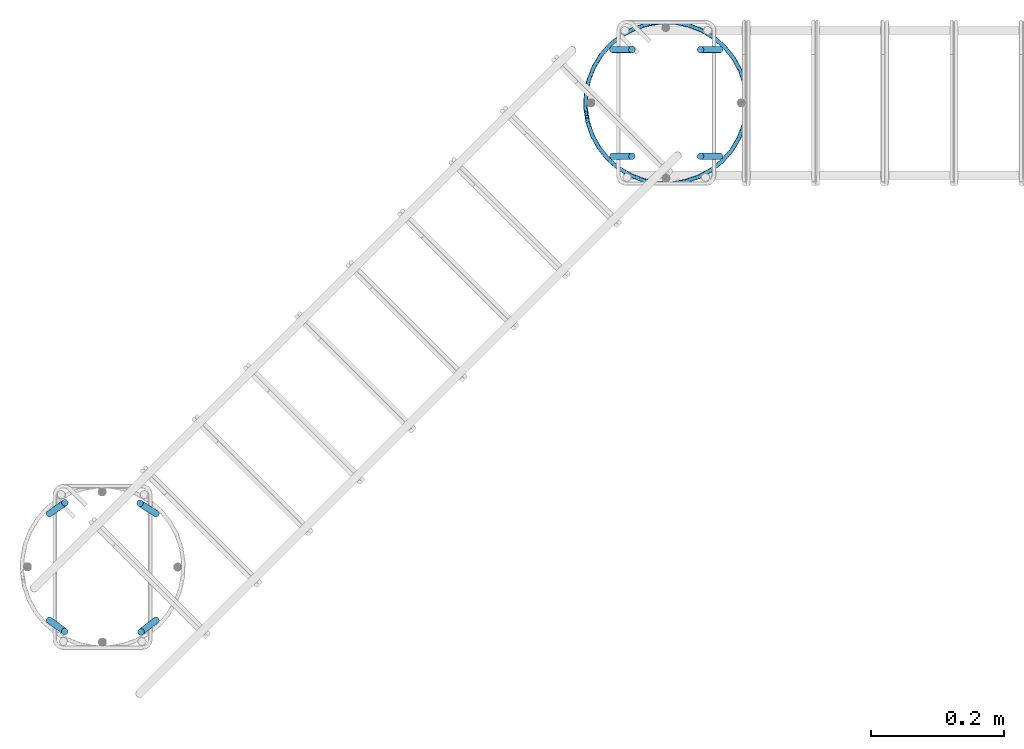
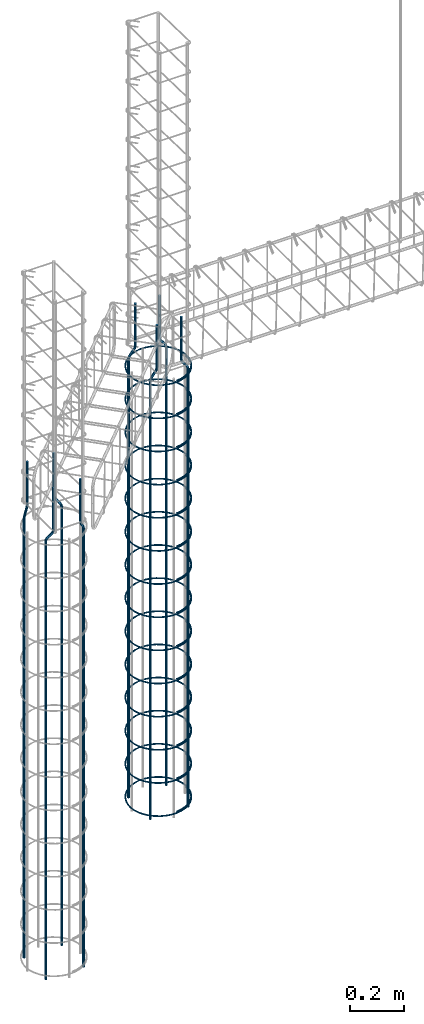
# One storey, part 3 of 14: 9 reinforcing bars.
"""IFC4 building model written with IfcOpenShell, lengths in centimetres."""

from ifc_helpers import new_model, entity, si_unit, converted_unit, derived_unit, direction, frame, origin, place, context, subcontext, project, spatial, type_object, element, save


model = new_model("IFC4")

# Units and contexts
model_context = context("Model", 3, precision=0.001, world=origin(), true_north=direction((6.123233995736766e-17, 1.0)))
body_context = subcontext(model_context, "Body", "Model", "MODEL_VIEW")
ifc_project = project(units=[si_unit("LENGTHUNIT", "METRE", prefix="CENTI"), si_unit("AREAUNIT", "SQUARE_METRE"), converted_unit("PLANEANGLEUNIT", "DEGREE", entity("IfcPlaneAngleMeasure", 0.017453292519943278), si_unit("PLANEANGLEUNIT", "RADIAN"), dimensions=[0, 0, 0, 0, 0, 0, 0]), si_unit("VOLUMEUNIT", "CUBIC_METRE"), derived_unit("THERMALTRANSMITTANCEUNIT", [(si_unit("MASSUNIT", "GRAM", prefix="KILO"), 1), (si_unit("THERMODYNAMICTEMPERATUREUNIT", "KELVIN"), -1), (si_unit("TIMEUNIT", "SECOND"), -3)])], contexts=[model_context])

# Site, building, storey
site_placement = place(None, origin())
site = spatial("IfcSite", under=ifc_project, at=site_placement, Name="Default", CompositionType="ELEMENT")
building_placement = place(site_placement, origin())
building = spatial("IfcBuilding", under=site, at=building_placement, Name="CONTENÇÃO DE ARQUIBANCADA - GINÁSIO PADRÃO", CompositionType="ELEMENT")
storey_placement = place(building_placement, frame((0.0, 0.0, -100.0)))
storey = spatial("IfcBuildingStorey", under=building, at=storey_placement, Name="Nível 3", CompositionType="ELEMENT", Elevation=-100.0)

# Reinforcing bars
reinforcing_bar_type_1 = type_object("IfcReinforcingBarType", Name="Barra do vergalhão:10 CA-50", PredefinedType="NOTDEFINED")
reinforcing_bar_1_placement = place(storey_placement, origin())
element("IfcReinforcingBar", 1, at=reinforcing_bar_1_placement, inside=storey, type_object=reinforcing_bar_type_1, Name="Barra do vergalhão:10 CA-50 : Forma 19", ObjectType="Barra do vergalhão:10 CA-50", context=body_context, shape_type="AdvancedSweptSolid", body=[
    entity("IfcSweptDiskSolid", entity("IfcIndexedPolyCurve", entity("IfcCartesianPointList3D", [[-62.50386910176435, 187.1149900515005, -129.99999999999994], [-62.50386910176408, 187.11499005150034, 67.4289900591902], [-62.65034242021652, 187.2101109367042, 68.43764958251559], [-63.072708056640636, 187.4843983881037, 69.32886791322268], [-64.34376524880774, 188.30983258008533, 71.18095366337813], [-64.76613088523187, 188.58412003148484, 72.07217199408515], [-64.9126042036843, 188.6792409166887, 73.08083151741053], [-64.91260420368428, 188.6792409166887, 92.00982157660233]]), [entity("IfcLineIndex", [1, 2]), entity("IfcArcIndex", [2, 3, 4]), entity("IfcLineIndex", [4, 5]), entity("IfcArcIndex", [5, 6, 7]), entity("IfcLineIndex", [7, 8])], False), 0.5, None, 0.0, 81.58693171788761),
])
reinforcing_bar_2_placement = place(storey_placement, origin())
element("IfcReinforcingBar", 2, at=reinforcing_bar_2_placement, inside=storey, type_object=reinforcing_bar_type_1, Name="Barra do vergalhão:10 CA-50 : Forma 19", ObjectType="Barra do vergalhão:10 CA-50", context=body_context, shape_type="AdvancedSweptSolid", body=[
    entity("IfcSweptDiskSolid", entity("IfcIndexedPolyCurve", entity("IfcCartesianPointList3D", [[-78.58549875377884, 187.11499005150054, -129.99999999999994], [-78.58549875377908, 187.11499005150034, 67.4289900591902], [-78.44243433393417, 187.21516483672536, 68.43764958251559], [-78.02989848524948, 187.50402554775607, 69.32886791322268], [-76.78842282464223, 188.37331616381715, 71.18095366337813], [-76.37588697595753, 188.66217687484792, 72.07217199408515], [-76.23282255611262, 188.7623516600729, 73.08083151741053], [-76.23282255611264, 188.7623516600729, 92.00982157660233]]), [entity("IfcLineIndex", [1, 2]), entity("IfcArcIndex", [2, 3, 4]), entity("IfcLineIndex", [4, 5]), entity("IfcArcIndex", [5, 6, 7]), entity("IfcLineIndex", [7, 8])], False), 0.5, None, 0.0, 81.58693171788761),
])
reinforcing_bar_3_placement = place(storey_placement, origin())
element("IfcReinforcingBar", 3, at=reinforcing_bar_3_placement, inside=storey, type_object=reinforcing_bar_type_1, Name="Barra do vergalhão:10 CA-50 : Forma 19", ObjectType="Barra do vergalhão:10 CA-50", context=body_context, shape_type="AdvancedSweptSolid", body=[
    entity("IfcSweptDiskSolid", entity("IfcIndexedPolyCurve", entity("IfcCartesianPointList3D", [[-62.50386910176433, 171.03336039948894, -129.99999999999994], [-62.50386910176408, 171.03336039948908, 67.4289900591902], [-62.64149471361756, 170.9258354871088, 68.43764958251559], [-63.03834739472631, 170.6157801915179, 69.32886791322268], [-64.23262650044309, 169.68270709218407, 71.18095366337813], [-64.62947918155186, 169.37265179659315, 72.07217199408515], [-64.76710479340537, 169.26512688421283, 73.08083151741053], [-64.76710479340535, 169.26512688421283, 92.00982157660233]]), [entity("IfcLineIndex", [1, 2]), entity("IfcArcIndex", [2, 3, 4]), entity("IfcLineIndex", [4, 5]), entity("IfcArcIndex", [5, 6, 7]), entity("IfcLineIndex", [7, 8])], False), 0.5, None, 0.0, 81.58693171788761),
])
reinforcing_bar_4_placement = place(storey_placement, origin())
element("IfcReinforcingBar", 4, at=reinforcing_bar_4_placement, inside=storey, type_object=reinforcing_bar_type_1, Name="Barra do vergalhão:10 CA-50 : Forma 19", ObjectType="Barra do vergalhão:10 CA-50", context=body_context, shape_type="AdvancedSweptSolid", body=[
    entity("IfcSweptDiskSolid", entity("IfcIndexedPolyCurve", entity("IfcCartesianPointList3D", [[-78.58549875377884, 171.03336039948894, -129.99999999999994], [-78.58549875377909, 171.0333603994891, 67.4289900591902], [-78.44420441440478, 170.9307040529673, 68.43764958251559], [-78.03677271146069, 170.63468759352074, 69.32886791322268], [-76.81065734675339, 169.7438626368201, 71.18095366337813], [-76.40322564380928, 169.44784617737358, 72.07217199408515], [-76.26193130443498, 169.34518983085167, 73.08083151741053], [-76.261931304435, 169.34518983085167, 92.00982157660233]]), [entity("IfcLineIndex", [1, 2]), entity("IfcArcIndex", [2, 3, 4]), entity("IfcLineIndex", [4, 5]), entity("IfcArcIndex", [5, 6, 7]), entity("IfcLineIndex", [7, 8])], False), 0.5, None, 0.0, 81.58693171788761),
])
reinforcing_bar_5_placement = place(storey_placement, origin())
element("IfcReinforcingBar", 5, at=reinforcing_bar_5_placement, inside=storey, type_object=reinforcing_bar_type_1, Name="Barra do vergalhão:10 CA-50 : Forma 19", ObjectType="Barra do vergalhão:10 CA-50", context=body_context, shape_type="AdvancedSweptSolid", body=[
    entity("IfcSweptDiskSolid", entity("IfcIndexedPolyCurve", entity("IfcCartesianPointList3D", [[22.496130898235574, 257.1149900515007, -129.99999999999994], [22.496130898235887, 257.1149900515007, 67.4289900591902], [22.321481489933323, 257.1149900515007, 68.43764958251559], [21.81786820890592, 257.1149900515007, 69.32886791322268], [20.302306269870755, 257.1149900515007, 71.18095366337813], [19.798692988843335, 257.1149900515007, 72.07217199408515], [19.624043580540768, 257.1149900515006, 73.08083151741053], [19.624043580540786, 257.1149900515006, 92.00982157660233]]), [entity("IfcLineIndex", [1, 2]), entity("IfcArcIndex", [2, 3, 4]), entity("IfcLineIndex", [4, 5]), entity("IfcArcIndex", [5, 6, 7]), entity("IfcLineIndex", [7, 8])], False), 0.5, None, 0.0, 81.58693171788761),
])
reinforcing_bar_6_placement = place(storey_placement, origin())
element("IfcReinforcingBar", 6, at=reinforcing_bar_6_placement, inside=storey, type_object=reinforcing_bar_type_1, Name="Barra do vergalhão:10 CA-50 : Forma 19", ObjectType="Barra do vergalhão:10 CA-50", context=body_context, shape_type="AdvancedSweptSolid", body=[
    entity("IfcSweptDiskSolid", entity("IfcIndexedPolyCurve", entity("IfcCartesianPointList3D", [[6.414501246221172, 257.1149900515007, -129.99999999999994], [6.414501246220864, 257.1149900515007, 67.4289900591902], [6.589150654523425, 257.1149900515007, 68.43764958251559], [7.092763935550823, 257.1149900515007, 69.32886791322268], [8.608325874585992, 257.1149900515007, 71.18095366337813], [9.111939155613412, 257.1149900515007, 72.07217199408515], [9.286588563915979, 257.1149900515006, 73.08083151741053], [9.286588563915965, 257.1149900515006, 92.00982157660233]]), [entity("IfcLineIndex", [1, 2]), entity("IfcArcIndex", [2, 3, 4]), entity("IfcLineIndex", [4, 5]), entity("IfcArcIndex", [5, 6, 7]), entity("IfcLineIndex", [7, 8])], False), 0.5, None, 0.0, 81.58693171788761),
])
reinforcing_bar_7_placement = place(storey_placement, origin())
element("IfcReinforcingBar", 7, at=reinforcing_bar_7_placement, inside=storey, type_object=reinforcing_bar_type_1, Name="Barra do vergalhão:10 CA-50 : Forma 19", ObjectType="Barra do vergalhão:10 CA-50", context=body_context, shape_type="AdvancedSweptSolid", body=[
    entity("IfcSweptDiskSolid", entity("IfcIndexedPolyCurve", entity("IfcCartesianPointList3D", [[22.496130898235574, 241.03336039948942, -129.99999999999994], [22.496130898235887, 241.03336039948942, 67.4289900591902], [22.321481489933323, 241.03336039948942, 68.43764958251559], [21.81786820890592, 241.03336039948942, 69.32886791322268], [20.302306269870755, 241.03336039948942, 71.18095366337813], [19.798692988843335, 241.03336039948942, 72.07217199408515], [19.624043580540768, 241.03336039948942, 73.08083151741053], [19.624043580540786, 241.03336039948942, 92.00982157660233]]), [entity("IfcLineIndex", [1, 2]), entity("IfcArcIndex", [2, 3, 4]), entity("IfcLineIndex", [4, 5]), entity("IfcArcIndex", [5, 6, 7]), entity("IfcLineIndex", [7, 8])], False), 0.5, None, 0.0, 81.58693171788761),
])
reinforcing_bar_8_placement = place(storey_placement, origin())
element("IfcReinforcingBar", 8, at=reinforcing_bar_8_placement, inside=storey, type_object=reinforcing_bar_type_1, Name="Barra do vergalhão:10 CA-50 : Forma 19", ObjectType="Barra do vergalhão:10 CA-50", context=body_context, shape_type="AdvancedSweptSolid", body=[
    entity("IfcSweptDiskSolid", entity("IfcIndexedPolyCurve", entity("IfcCartesianPointList3D", [[6.414501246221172, 241.03336039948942, -129.99999999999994], [6.414501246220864, 241.03336039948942, 67.4289900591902], [6.589150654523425, 241.03336039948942, 68.43764958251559], [7.092763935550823, 241.03336039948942, 69.32886791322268], [8.608325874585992, 241.03336039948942, 71.18095366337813], [9.111939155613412, 241.03336039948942, 72.07217199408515], [9.286588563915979, 241.03336039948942, 73.08083151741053], [9.286588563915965, 241.03336039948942, 92.00982157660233]]), [entity("IfcLineIndex", [1, 2]), entity("IfcArcIndex", [2, 3, 4]), entity("IfcLineIndex", [4, 5]), entity("IfcArcIndex", [5, 6, 7]), entity("IfcLineIndex", [7, 8])], False), 0.5, None, 0.0, 81.58693171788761),
])
reinforcing_bar_type_2 = type_object("IfcReinforcingBarType", Name="Barra do vergalhão:6.3 CA-50", PredefinedType="NOTDEFINED")
reinforcing_bar_9_placement = place(storey_placement, origin())
element("IfcReinforcingBar", 9, at=reinforcing_bar_9_placement, inside=storey, type_object=reinforcing_bar_type_2, Name="Barra do vergalhão:6.3 CA-50 : Forma 33", ObjectType="Barra do vergalhão:6.3 CA-50", context=body_context, shape_type="AdvancedSweptSolid", body=[
    entity("IfcSweptDiskSolid", entity("IfcIndexedPolyCurve", entity("IfcCartesianPointList3D", [[15.274835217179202, 236.91676541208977, -127.19078734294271], [26.612725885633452, 249.89369437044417, -127.19078734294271], [13.635796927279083, 261.23158503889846, -127.19078734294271], [5.279241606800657, 257.0912746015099, -127.50578734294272], [2.297906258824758, 248.25465608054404, -127.82078734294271], [15.274835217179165, 236.91676541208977, -127.82078734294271], [26.612725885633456, 249.8936943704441, -127.82078734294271]]), [entity("IfcArcIndex", [1, 2, 3]), entity("IfcArcIndex", [3, 4, 5]), entity("IfcArcIndex", [5, 6, 7])], False), 0.31499999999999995, None, 0.0, 449.9458977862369),
    entity("IfcSweptDiskSolid", entity("IfcIndexedPolyCurve", entity("IfcCartesianPointList3D", [[15.274835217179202, 236.91676541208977, -112.23880370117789], [26.612725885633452, 249.89369437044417, -112.23880370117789], [13.635796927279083, 261.23158503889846, -112.23880370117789], [5.279241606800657, 257.0912746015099, -112.5538037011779], [2.297906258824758, 248.25465608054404, -112.86880370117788], [15.274835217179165, 236.91676541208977, -112.86880370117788], [26.612725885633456, 249.8936943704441, -112.86880370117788]]), [entity("IfcArcIndex", [1, 2, 3]), entity("IfcArcIndex", [3, 4, 5]), entity("IfcArcIndex", [5, 6, 7])], False), 0.31499999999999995, None, 0.0, 449.9458977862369),
    entity("IfcSweptDiskSolid", entity("IfcIndexedPolyCurve", entity("IfcCartesianPointList3D", [[15.274835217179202, 236.91676541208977, -97.28682005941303], [26.612725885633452, 249.89369437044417, -97.28682005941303], [13.635796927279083, 261.23158503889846, -97.28682005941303], [5.279241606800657, 257.0912746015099, -97.60182005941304], [2.297906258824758, 248.25465608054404, -97.91682005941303], [15.274835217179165, 236.91676541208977, -97.91682005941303], [26.612725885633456, 249.8936943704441, -97.91682005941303]]), [entity("IfcArcIndex", [1, 2, 3]), entity("IfcArcIndex", [3, 4, 5]), entity("IfcArcIndex", [5, 6, 7])], False), 0.31499999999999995, None, 0.0, 449.9458977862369),
    entity("IfcSweptDiskSolid", entity("IfcIndexedPolyCurve", entity("IfcCartesianPointList3D", [[15.274835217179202, 236.91676541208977, -82.33483641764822], [26.612725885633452, 249.89369437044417, -82.33483641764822], [13.635796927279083, 261.23158503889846, -82.33483641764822], [5.279241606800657, 257.0912746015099, -82.64983641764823], [2.297906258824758, 248.25465608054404, -82.9648364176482], [15.274835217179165, 236.91676541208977, -82.9648364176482], [26.612725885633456, 249.8936943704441, -82.9648364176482]]), [entity("IfcArcIndex", [1, 2, 3]), entity("IfcArcIndex", [3, 4, 5]), entity("IfcArcIndex", [5, 6, 7])], False), 0.31499999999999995, None, 0.0, 449.9458977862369),
    entity("IfcSweptDiskSolid", entity("IfcIndexedPolyCurve", entity("IfcCartesianPointList3D", [[15.274835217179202, 236.91676541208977, -67.38285277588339], [26.612725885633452, 249.89369437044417, -67.38285277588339], [13.635796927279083, 261.23158503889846, -67.38285277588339], [5.279241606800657, 257.0912746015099, -67.6978527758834], [2.297906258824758, 248.25465608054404, -68.01285277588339], [15.274835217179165, 236.91676541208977, -68.01285277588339], [26.612725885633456, 249.8936943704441, -68.01285277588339]]), [entity("IfcArcIndex", [1, 2, 3]), entity("IfcArcIndex", [3, 4, 5]), entity("IfcArcIndex", [5, 6, 7])], False), 0.31499999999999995, None, 0.0, 449.9458977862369),
    entity("IfcSweptDiskSolid", entity("IfcIndexedPolyCurve", entity("IfcCartesianPointList3D", [[15.274835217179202, 236.91676541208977, -52.43086913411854], [26.612725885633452, 249.89369437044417, -52.43086913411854], [13.635796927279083, 261.23158503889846, -52.430869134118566], [5.279241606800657, 257.0912746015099, -52.74586913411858], [2.297906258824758, 248.25465608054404, -53.06086913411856], [15.274835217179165, 236.91676541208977, -53.06086913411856], [26.612725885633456, 249.8936943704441, -53.06086913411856]]), [entity("IfcArcIndex", [1, 2, 3]), entity("IfcArcIndex", [3, 4, 5]), entity("IfcArcIndex", [5, 6, 7])], False), 0.31499999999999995, None, 0.0, 449.9458977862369),
    entity("IfcSweptDiskSolid", entity("IfcIndexedPolyCurve", entity("IfcCartesianPointList3D", [[15.274835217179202, 236.91676541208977, -37.47888549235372], [26.612725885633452, 249.89369437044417, -37.47888549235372], [13.635796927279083, 261.23158503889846, -37.47888549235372], [5.279241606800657, 257.0912746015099, -37.79388549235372], [2.297906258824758, 248.25465608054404, -38.10888549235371], [15.274835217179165, 236.91676541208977, -38.10888549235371], [26.612725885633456, 249.8936943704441, -38.10888549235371]]), [entity("IfcArcIndex", [1, 2, 3]), entity("IfcArcIndex", [3, 4, 5]), entity("IfcArcIndex", [5, 6, 7])], False), 0.31499999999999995, None, 0.0, 449.9458977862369),
    entity("IfcSweptDiskSolid", entity("IfcIndexedPolyCurve", entity("IfcCartesianPointList3D", [[15.274835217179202, 236.91676541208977, -22.526901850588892], [26.612725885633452, 249.89369437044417, -22.526901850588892], [13.635796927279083, 261.23158503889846, -22.526901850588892], [5.279241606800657, 257.0912746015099, -22.841901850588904], [2.297906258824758, 248.25465608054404, -23.156901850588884], [15.274835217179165, 236.91676541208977, -23.156901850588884], [26.612725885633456, 249.8936943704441, -23.156901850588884]]), [entity("IfcArcIndex", [1, 2, 3]), entity("IfcArcIndex", [3, 4, 5]), entity("IfcArcIndex", [5, 6, 7])], False), 0.31499999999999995, None, 0.0, 449.9458977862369),
    entity("IfcSweptDiskSolid", entity("IfcIndexedPolyCurve", entity("IfcCartesianPointList3D", [[15.274835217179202, 236.91676541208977, -7.574918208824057], [26.612725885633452, 249.89369437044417, -7.574918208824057], [13.635796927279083, 261.23158503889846, -7.57491820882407], [5.279241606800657, 257.0912746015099, -7.889918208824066], [2.297906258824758, 248.25465608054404, -8.204918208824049], [15.274835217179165, 236.91676541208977, -8.204918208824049], [26.612725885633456, 249.8936943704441, -8.204918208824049]]), [entity("IfcArcIndex", [1, 2, 3]), entity("IfcArcIndex", [3, 4, 5]), entity("IfcArcIndex", [5, 6, 7])], False), 0.31499999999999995, None, 0.0, 449.9458977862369),
    entity("IfcSweptDiskSolid", entity("IfcIndexedPolyCurve", entity("IfcCartesianPointList3D", [[15.274835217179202, 236.91676541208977, 7.37706543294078], [26.612725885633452, 249.89369437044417, 7.37706543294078], [13.635796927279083, 261.23158503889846, 7.377065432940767], [5.279241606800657, 257.0912746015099, 7.062065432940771], [2.297906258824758, 248.25465608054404, 6.747065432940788], [15.274835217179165, 236.91676541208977, 6.747065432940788], [26.612725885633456, 249.8936943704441, 6.747065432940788]]), [entity("IfcArcIndex", [1, 2, 3]), entity("IfcArcIndex", [3, 4, 5]), entity("IfcArcIndex", [5, 6, 7])], False), 0.31499999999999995, None, 0.0, 449.9458977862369),
    entity("IfcSweptDiskSolid", entity("IfcIndexedPolyCurve", entity("IfcCartesianPointList3D", [[15.274835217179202, 236.91676541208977, 22.329049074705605], [26.612725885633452, 249.89369437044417, 22.329049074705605], [13.635796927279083, 261.23158503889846, 22.32904907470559], [5.279241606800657, 257.0912746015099, 22.014049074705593], [2.297906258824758, 248.25465608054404, 21.699049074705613], [15.274835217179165, 236.91676541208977, 21.699049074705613], [26.612725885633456, 249.8936943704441, 21.699049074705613]]), [entity("IfcArcIndex", [1, 2, 3]), entity("IfcArcIndex", [3, 4, 5]), entity("IfcArcIndex", [5, 6, 7])], False), 0.31499999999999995, None, 0.0, 449.9458977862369),
    entity("IfcSweptDiskSolid", entity("IfcIndexedPolyCurve", entity("IfcCartesianPointList3D", [[15.274835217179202, 236.91676541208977, 37.28103271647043], [26.612725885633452, 249.89369437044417, 37.28103271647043], [13.635796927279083, 261.23158503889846, 37.28103271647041], [5.279241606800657, 257.0912746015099, 36.966032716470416], [2.297906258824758, 248.25465608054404, 36.65103271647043], [15.274835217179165, 236.91676541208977, 36.65103271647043], [26.612725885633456, 249.8936943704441, 36.65103271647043]]), [entity("IfcArcIndex", [1, 2, 3]), entity("IfcArcIndex", [3, 4, 5]), entity("IfcArcIndex", [5, 6, 7])], False), 0.31499999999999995, None, 0.0, 449.9458977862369),
    entity("IfcSweptDiskSolid", entity("IfcIndexedPolyCurve", entity("IfcCartesianPointList3D", [[15.274835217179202, 236.91676541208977, 52.233016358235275], [26.612725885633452, 249.89369437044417, 52.233016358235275], [13.635796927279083, 261.23158503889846, 52.23301635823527], [5.279241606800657, 257.0912746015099, 51.91801635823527], [2.297906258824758, 248.25465608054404, 51.60301635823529], [15.274835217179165, 236.91676541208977, 51.60301635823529], [26.612725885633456, 249.8936943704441, 51.60301635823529]]), [entity("IfcArcIndex", [1, 2, 3]), entity("IfcArcIndex", [3, 4, 5]), entity("IfcArcIndex", [5, 6, 7])], False), 0.31499999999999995, None, 0.0, 449.9458977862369),
    entity("IfcSweptDiskSolid", entity("IfcIndexedPolyCurve", entity("IfcCartesianPointList3D", [[15.274835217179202, 236.91676541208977, 67.1850000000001], [26.612725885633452, 249.89369437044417, 67.1850000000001], [13.635796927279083, 261.23158503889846, 67.1850000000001], [5.279241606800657, 257.0912746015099, 66.87000000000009], [2.297906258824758, 248.25465608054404, 66.5550000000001], [15.274835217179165, 236.91676541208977, 66.5550000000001], [26.612725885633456, 249.8936943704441, 66.5550000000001]]), [entity("IfcArcIndex", [1, 2, 3]), entity("IfcArcIndex", [3, 4, 5]), entity("IfcArcIndex", [5, 6, 7])], False), 0.31499999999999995, None, 0.0, 449.9458977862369),
])

save(model, "model.ifc")
